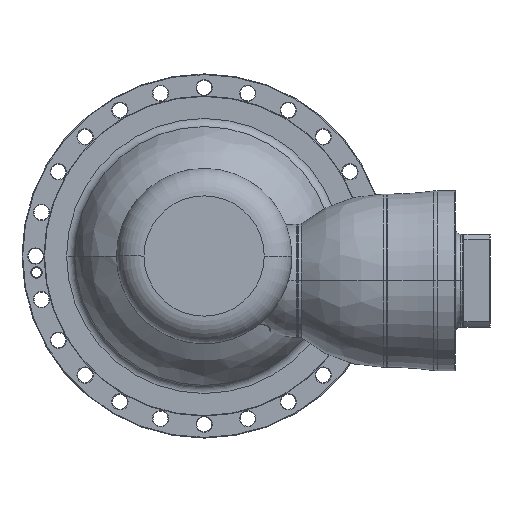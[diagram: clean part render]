
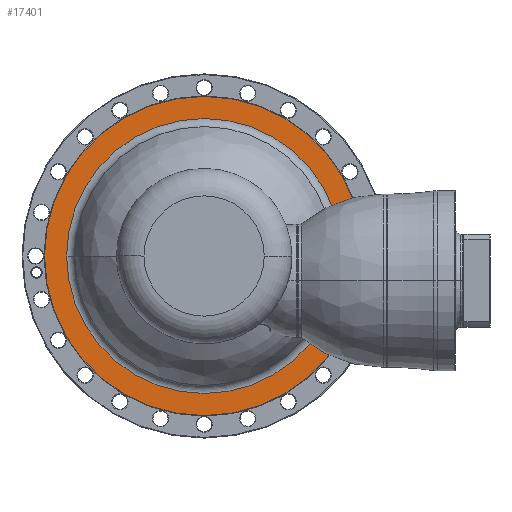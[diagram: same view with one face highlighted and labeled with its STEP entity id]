
A CAD part, left-side view. The second image highlights one B-rep face of the part: STEP entity #17401.
In plain terms, the highlighted planar face has unit normal (-1, 0, 0) as drawn and (1, 0, 0) by its records, which use the part's own axes.
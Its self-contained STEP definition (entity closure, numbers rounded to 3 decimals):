
#16872=CARTESIAN_POINT('',(-137.5,0.,0.));
#16873=DIRECTION('',(-1.,0.,0.));
#16874=DIRECTION('',(0.,-1.,0.));
#16875=AXIS2_PLACEMENT_3D('',#16872,#16873,#16874);
#16877=CARTESIAN_POINT('',(-137.5,0.,0.));
#16878=DIRECTION('',(-1.,0.,0.));
#16879=DIRECTION('',(0.,1.,0.));
#16880=AXIS2_PLACEMENT_3D('',#16877,#16878,#16879);
#16882=CARTESIAN_POINT('',(-137.5,0.,0.));
#16883=DIRECTION('',(1.,0.,0.));
#16884=DIRECTION('',(0.,-1.,0.));
#16885=AXIS2_PLACEMENT_3D('',#16882,#16883,#16884);
#16887=CARTESIAN_POINT('',(-137.5,0.,0.));
#16888=DIRECTION('',(1.,0.,0.));
#16889=DIRECTION('',(0.,1.,0.));
#16890=AXIS2_PLACEMENT_3D('',#16887,#16888,#16889);
#17119=CARTESIAN_POINT('',(-137.5,-232.2,0.));
#17120=CARTESIAN_POINT('',(-137.5,232.2,0.));
#17121=VERTEX_POINT('',#17119);
#17122=VERTEX_POINT('',#17120);
#17167=CARTESIAN_POINT('',(-137.5,-200.055,0.));
#17168=CARTESIAN_POINT('',(-137.5,200.055,0.));
#17169=VERTEX_POINT('',#17167);
#17170=VERTEX_POINT('',#17168);
#17385=CARTESIAN_POINT('',(-137.5,0.,0.));
#17386=DIRECTION('',(1.,0.,0.));
#17387=DIRECTION('',(0.,-1.,0.));
#17388=AXIS2_PLACEMENT_3D('',#17385,#17386,#17387);
#17389=PLANE('',#17388);
#17391=ORIENTED_EDGE('',*,*,#17390,.T.);
#17393=ORIENTED_EDGE('',*,*,#17392,.T.);
#17394=EDGE_LOOP('',(#17391,#17393));
#17395=FACE_OUTER_BOUND('',#17394,.F.);
#17396=ORIENTED_EDGE('',*,*,#17375,.T.);
#17398=ORIENTED_EDGE('',*,*,#17397,.T.);
#17399=EDGE_LOOP('',(#17396,#17398));
#17400=FACE_BOUND('',#17399,.F.);
#17401=ADVANCED_FACE('',(#17395,#17400),#17389,.T.);
#16876=CIRCLE('',#16875,232.2);
#16881=CIRCLE('',#16880,232.2);
#16886=CIRCLE('',#16885,200.055);
#16891=CIRCLE('',#16890,200.055);
#17375=EDGE_CURVE('',#17169,#17170,#16886,.T.);
#17390=EDGE_CURVE('',#17121,#17122,#16876,.T.);
#17392=EDGE_CURVE('',#17122,#17121,#16881,.T.);
#17397=EDGE_CURVE('',#17170,#17169,#16891,.T.);
